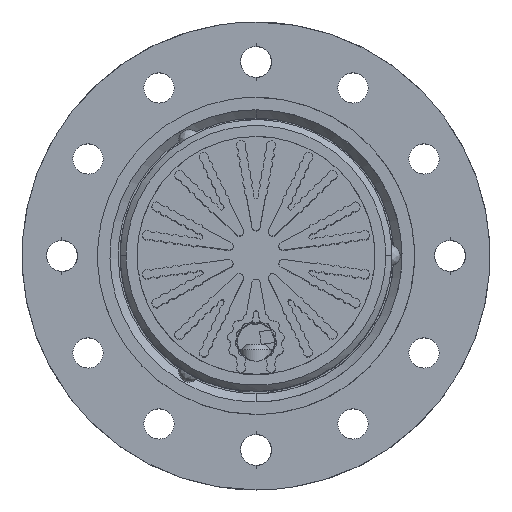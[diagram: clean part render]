
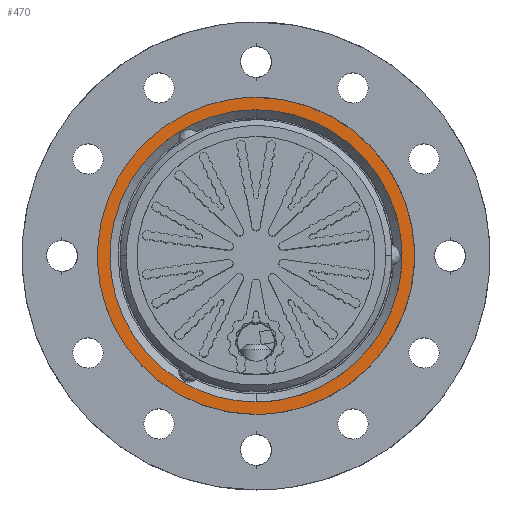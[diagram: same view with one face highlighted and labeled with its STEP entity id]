
A CAD part, top view. The second image highlights one B-rep face of the part: STEP entity #470.
In plain terms, the highlighted planar face has unit normal (0, 0, 1).
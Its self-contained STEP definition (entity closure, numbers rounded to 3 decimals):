
#119=FACE_BOUND('',#2525,.T.);
#470=ADVANCED_FACE('',(#1466,#119),#15994,.T.);
#1466=FACE_OUTER_BOUND('',#2524,.T.);
#2524=EDGE_LOOP('',(#4811,#4812));
#2525=EDGE_LOOP('',(#4813,#4814));
#4811=ORIENTED_EDGE('',*,*,#9456,.F.);
#4812=ORIENTED_EDGE('',*,*,#9436,.F.);
#4813=ORIENTED_EDGE('',*,*,#9458,.T.);
#4814=ORIENTED_EDGE('',*,*,#9432,.T.);
#9432=EDGE_CURVE('',#14604,#14603,#12873,.T.);
#9436=EDGE_CURVE('',#14607,#14608,#12875,.T.);
#9456=EDGE_CURVE('',#14608,#14607,#12888,.T.);
#9458=EDGE_CURVE('',#14603,#14604,#12890,.T.);
#12873=(
BOUNDED_CURVE()
B_SPLINE_CURVE(2,(#26139,#26140,#26141,#26142,#26143),.UNSPECIFIED.,.F.,
 .F.)
B_SPLINE_CURVE_WITH_KNOTS((3,2,3),(-60.79,-30.395,
0.),.UNSPECIFIED.)
CURVE()
GEOMETRIC_REPRESENTATION_ITEM()
RATIONAL_B_SPLINE_CURVE((1.,0.707,1.,0.707,1.))
REPRESENTATION_ITEM('')
);
#12875=(
BOUNDED_CURVE()
B_SPLINE_CURVE(2,(#26153,#26154,#26155,#26156,#26157),.UNSPECIFIED.,.F.,
 .F.)
B_SPLINE_CURVE_WITH_KNOTS((3,2,3),(0.,32.987,65.973),
 .UNSPECIFIED.)
CURVE()
GEOMETRIC_REPRESENTATION_ITEM()
RATIONAL_B_SPLINE_CURVE((1.,0.707,1.,0.707,1.))
REPRESENTATION_ITEM('')
);
#12888=(
BOUNDED_CURVE()
B_SPLINE_CURVE(2,(#26232,#26233,#26234,#26235,#26236),.UNSPECIFIED.,.F.,
 .F.)
B_SPLINE_CURVE_WITH_KNOTS((3,2,3),(0.,32.987,65.973),
 .UNSPECIFIED.)
CURVE()
GEOMETRIC_REPRESENTATION_ITEM()
RATIONAL_B_SPLINE_CURVE((1.,0.707,1.,0.707,1.))
REPRESENTATION_ITEM('')
);
#12890=(
BOUNDED_CURVE()
B_SPLINE_CURVE(2,(#26242,#26243,#26244,#26245,#26246),.UNSPECIFIED.,.F.,
 .F.)
B_SPLINE_CURVE_WITH_KNOTS((3,2,3),(-60.79,-30.395,
0.),.UNSPECIFIED.)
CURVE()
GEOMETRIC_REPRESENTATION_ITEM()
RATIONAL_B_SPLINE_CURVE((1.,0.707,1.,0.707,1.))
REPRESENTATION_ITEM('')
);
#14603=VERTEX_POINT('',#25875);
#14604=VERTEX_POINT('',#25876);
#14607=VERTEX_POINT('',#25879);
#14608=VERTEX_POINT('',#25880);
#15994=PLANE('',#17010);
#17010=AXIS2_PLACEMENT_3D('',#25444,#17205,$);
#17205=DIRECTION('',(0.,0.,1.));
#25444=CARTESIAN_POINT('',(-25.2,31.4,-38.95));
#25875=CARTESIAN_POINT('',(0.,25.55,-38.95));
#25876=CARTESIAN_POINT('',(0.,-13.15,-38.95));
#25879=CARTESIAN_POINT('',(0.,27.2,-38.95));
#25880=CARTESIAN_POINT('',(0.,-14.8,-38.95));
#26139=CARTESIAN_POINT('',(0.,-13.15,-38.95));
#26140=CARTESIAN_POINT('',(-19.35,-13.15,-38.95));
#26141=CARTESIAN_POINT('',(-19.35,6.2,-38.95));
#26142=CARTESIAN_POINT('',(-19.35,25.55,-38.95));
#26143=CARTESIAN_POINT('',(0.,25.55,-38.95));
#26153=CARTESIAN_POINT('',(0.,27.2,-38.95));
#26154=CARTESIAN_POINT('',(21.,27.2,-38.95));
#26155=CARTESIAN_POINT('',(21.,6.2,-38.95));
#26156=CARTESIAN_POINT('',(21.,-14.8,-38.95));
#26157=CARTESIAN_POINT('',(0.,-14.8,-38.95));
#26232=CARTESIAN_POINT('',(0.,-14.8,-38.95));
#26233=CARTESIAN_POINT('',(-21.,-14.8,-38.95));
#26234=CARTESIAN_POINT('',(-21.,6.2,-38.95));
#26235=CARTESIAN_POINT('',(-21.,27.2,-38.95));
#26236=CARTESIAN_POINT('',(0.,27.2,-38.95));
#26242=CARTESIAN_POINT('',(0.,25.55,-38.95));
#26243=CARTESIAN_POINT('',(19.35,25.55,-38.95));
#26244=CARTESIAN_POINT('',(19.35,6.2,-38.95));
#26245=CARTESIAN_POINT('',(19.35,-13.15,-38.95));
#26246=CARTESIAN_POINT('',(0.,-13.15,-38.95));
